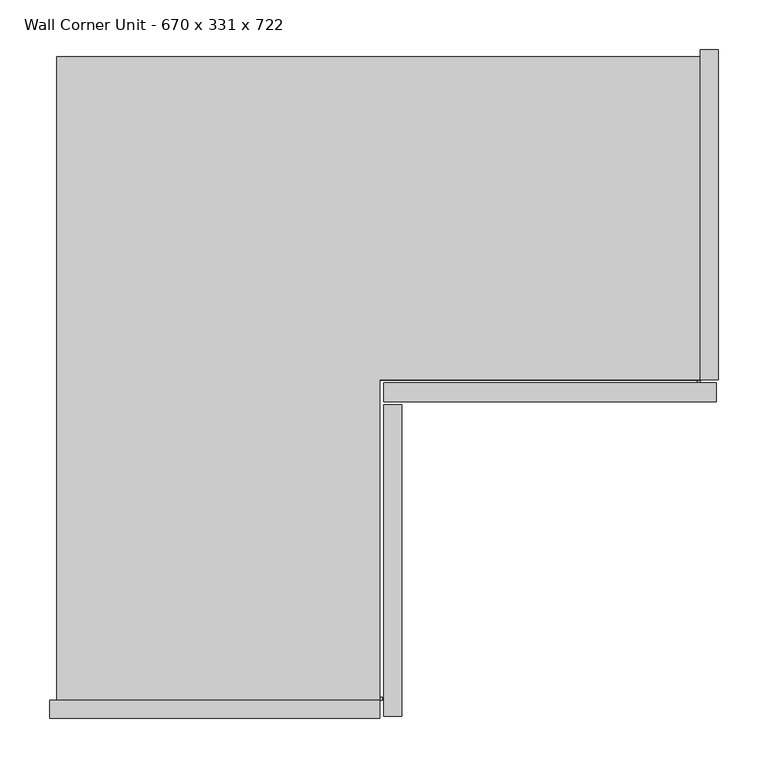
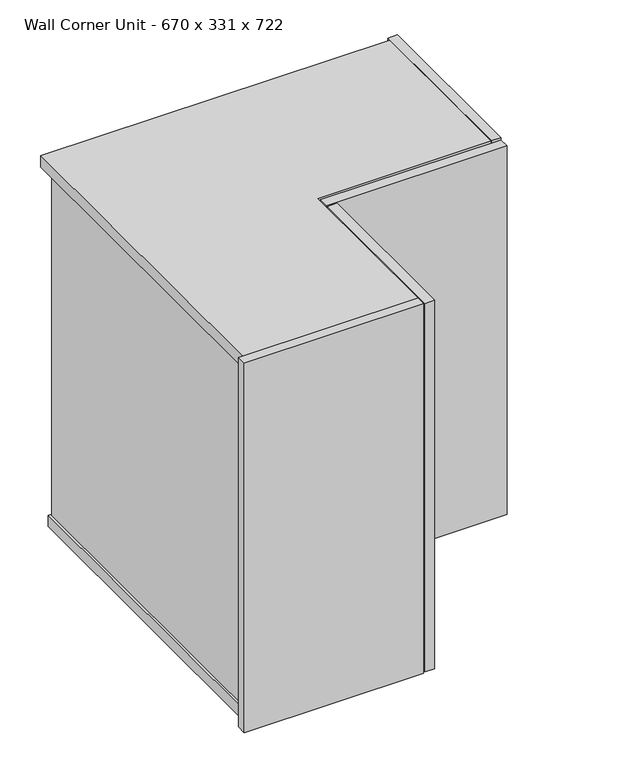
"""IFC4 building model written with IfcOpenShell, lengths in millimetres: furniture geometry, Furniture_Other-Furniture_Molteni&C_Prime_Wall-Unit-SP-Corner_331mm : Wall Corner Unit - 670 x 331 x 722."""

import ifcopenshell
import ifcopenshell.guid

model = None  # the IFC model being written
_history = None  # IfcOwnerHistory: only IFC2X3 demands one
_inside = {}  # id of a spatial element -> (the spatial element, [elements in it])
_under = {}  # id of a project, library or spatial element -> (it, [spatial elements below it])
_declared = {}  # id of a project -> (the project, [libraries it declares])
_typed = {}  # id of a type object -> (the type object, [elements of that type])
_made_of = {}  # id of a material, layer set ... -> (it, [elements and type objects made of it])


def new_model(schema):
    """Start an empty IFC model of exactly this schema.

    Asked for "IFC4X3", IfcOpenShell would pick the latest addendum, in which some entities
    have other attributes; the version numbers below select the first issue.
    IFC2X3 requires an IfcOwnerHistory on every rooted entity: one is made here for all.
    """
    global model, _history
    if schema == "IFC4X3":
        model = ifcopenshell.file(schema_version=(4, 3, 0, 0))
    else:
        model = ifcopenshell.file(schema=schema)
    _inside.clear()
    _under.clear()
    _declared.clear()
    _typed.clear()
    _made_of.clear()
    _history = None
    if model.schema == "IFC2X3":
        org = make("IfcOrganization", Name="unknown")
        user = make(
            "IfcPersonAndOrganization",
            ThePerson=make("IfcPerson", FamilyName="unknown"),
            TheOrganization=org,
        )
        app = make(
            "IfcApplication",
            ApplicationDeveloper=org,
            Version="unknown",
            ApplicationFullName="unknown",
            ApplicationIdentifier="unknown",
        )
        _history = make(
            "IfcOwnerHistory",
            OwningUser=user,
            OwningApplication=app,
            ChangeAction="ADDED",
            CreationDate=0,
        )
    return model


def make(cls, **values):
    """One entity of the class cls with the attributes given. An attribute that is None is left unset."""
    return model.create_entity(
        cls, **{name: value for name, value in values.items() if value is not None}
    )


def rooted(cls, **values):
    """An entity with a GlobalId (a new one), such as an element, a storey or a relation."""
    return make(cls, GlobalId=ifcopenshell.guid.new(), OwnerHistory=_history, **values)


def si_unit(unit_type, name, prefix=None):
    """IfcSIUnit, for example si_unit("LENGTHUNIT", "METRE", prefix="MILLI")."""
    return make("IfcSIUnit", UnitType=unit_type, Prefix=prefix, Name=name)


def assignment(units):
    """IfcUnitAssignment: the units of a project."""
    return None if units is None else make("IfcUnitAssignment", Units=units)


def point(xyz):
    """IfcCartesianPoint."""
    return None if xyz is None else make("IfcCartesianPoint", Coordinates=xyz)


def direction(xyz):
    """IfcDirection."""
    return None if xyz is None else make("IfcDirection", DirectionRatios=xyz)


def frame(location, z_axis=None, x_axis=None):
    """IfcAxis2Placement3D, a coordinate frame: its origin and axes. An axis left out is left unset."""
    return make(
        "IfcAxis2Placement3D",
        Location=point(location),
        Axis=direction(z_axis),
        RefDirection=direction(x_axis),
    )


def origin():
    """The frame at (0, 0, 0) with its axes left unset."""
    return frame((0.0, 0.0, 0.0))


def origin_with_axes():
    """The frame at (0, 0, 0) with the z axis (0, 0, 1) and the x axis (1, 0, 0) written out."""
    return frame((0.0, 0.0, 0.0), z_axis=(0.0, 0.0, 1.0), x_axis=(1.0, 0.0, 0.0))


def place(relative_to, where):
    """IfcLocalPlacement: puts the frame where relative to a parent placement (None: the world)."""
    return make(
        "IfcLocalPlacement", PlacementRelTo=relative_to, RelativePlacement=where
    )


def context(
    kind, dimensions, precision=None, world=None, true_north=None, identifier=None
):
    """IfcGeometricRepresentationContext, for example the 3D "Model" context."""
    return make(
        "IfcGeometricRepresentationContext",
        ContextIdentifier=identifier,
        ContextType=kind,
        CoordinateSpaceDimension=dimensions,
        Precision=precision,
        WorldCoordinateSystem=world,
        TrueNorth=true_north,
    )


def project(units=None, contexts=None):
    """IfcProject with its units and contexts."""
    return rooted(
        "IfcProject",
        Name="project",
        RepresentationContexts=contexts,
        UnitsInContext=assignment(units),
    )


def spatial(cls, under=None, at=None, **own):
    """A site, building, storey or space (cls), placed at a placement, below another one or the project."""
    s = rooted(cls, ObjectPlacement=at, **own)
    if under is not None:
        _under.setdefault(under.id(), (under, []))[1].append(s)
    return s


def polyline(points):
    """IfcPolyline through the points."""
    return make("IfcPolyline", Points=[point(p) for p in points])


def circle_curve(where, radius):
    """IfcCircle in the frame where."""
    return make("IfcCircle", Position=where, Radius=radius)


def outline(outer, holes=None, kind="AREA"):
    """IfcArbitraryClosedProfileDef: a profile drawn as a closed curve; with holes, ...WithVoids."""
    if holes is None:
        return make("IfcArbitraryClosedProfileDef", ProfileType=kind, OuterCurve=outer)
    return make(
        "IfcArbitraryProfileDefWithVoids",
        ProfileType=kind,
        OuterCurve=outer,
        InnerCurves=holes,
    )


def extrude(swept, where, along, depth):
    """IfcExtrudedAreaSolid: the profile swept, set in the frame where, extruded along a direction by depth."""
    return make(
        "IfcExtrudedAreaSolid",
        SweptArea=swept,
        Position=where,
        ExtrudedDirection=direction(along),
        Depth=depth,
    )


def faces_of(points, faces, orient=None, outer=None):
    """IfcFace entities. A face is a list of loops; a loop is a list of indices into points, from 0.

    orient and outer hold one flag for each loop. By default every Orientation is true, the
    first loop of a face is its IfcFaceOuterBound and the others are IfcFaceBound.
    """
    made = []
    for i, loops in enumerate(faces):
        bounds = []
        for j, loop in enumerate(loops):
            is_outer = j == 0 if outer is None else outer[i][j]
            bounds.append(
                make(
                    "IfcFaceOuterBound" if is_outer else "IfcFaceBound",
                    Bound=make("IfcPolyLoop", Polygon=[points[k] for k in loop]),
                    Orientation=True if orient is None else orient[i][j],
                )
            )
        made.append(make("IfcFace", Bounds=bounds))
    return made


def faceted_brep(points, faces, orient=None, outer=None, voids=None):
    """IfcFacetedBrep: a solid bounded by flat faces; with voids (closed shells), ...WithVoids."""
    shared = [point(p) for p in points]
    hull = make("IfcClosedShell", CfsFaces=faces_of(shared, faces, orient, outer))
    if voids is None:
        return make("IfcFacetedBrep", Outer=hull)
    return make(
        "IfcFacetedBrepWithVoids",
        Outer=hull,
        Voids=[
            make(cls, CfsFaces=faces_of(shared, fs, o, b)) for cls, fs, o, b in voids
        ],
    )


def shape(context_of_items, identifier, shape_type, items):
    """IfcShapeRepresentation: the items that make up one representation, for example the "Body"."""
    return make(
        "IfcShapeRepresentation",
        ContextOfItems=context_of_items,
        RepresentationIdentifier=identifier,
        RepresentationType=shape_type,
        Items=items,
    )


def source(mapping_origin, context_of_items, identifier, shape_type, items):
    """IfcRepresentationMap: a shape defined once, which mapped items show again and again."""
    return make(
        "IfcRepresentationMap",
        MappingOrigin=mapping_origin,
        MappedRepresentation=shape(context_of_items, identifier, shape_type, items),
    )


def transform(
    local_origin,
    x_axis=None,
    y_axis=None,
    z_axis=None,
    scale=None,
    scale2=None,
    scale3=None,
    uniform=True,
):
    """IfcCartesianTransformationOperator3D, or its non-uniform kind. x_axis, y_axis, z_axis: its Axis1, 2, 3."""
    if uniform:
        return make(
            "IfcCartesianTransformationOperator3D",
            Axis1=direction(x_axis),
            Axis2=direction(y_axis),
            LocalOrigin=point(local_origin),
            Scale=scale,
            Axis3=direction(z_axis),
        )
    return make(
        "IfcCartesianTransformationOperator3DnonUniform",
        Axis1=direction(x_axis),
        Axis2=direction(y_axis),
        LocalOrigin=point(local_origin),
        Scale=scale,
        Axis3=direction(z_axis),
        Scale2=scale2,
        Scale3=scale3,
    )


def mapped(mapping_source, mapping_target):
    """IfcMappedItem: shows the shape of a source again, moved by a transform."""
    return make(
        "IfcMappedItem", MappingSource=mapping_source, MappingTarget=mapping_target
    )


def made_of(thing, what):
    """Note that an element or type object is made of a material, layer set ...; save() writes the relation."""
    if what is not None:
        _made_of.setdefault(what.id(), (what, []))[1].append(thing)
    return thing


def element(
    cls,
    number,
    at=None,
    inside=None,
    cuts=None,
    type_object=None,
    material=None,
    context=None,
    identifier="Body",
    shape_type=None,
    held_by="IfcProductDefinitionShape",
    body=None,
    shapes=None,
    **own,
):
    """One element of the class cls, such as IfcWall. Its Tag is "e" and its number.

    at: its placement. inside: the storey or other place that contains it. cuts: it is an
    opening in that element (IfcRelVoidsElement). A single representation is given by context,
    identifier, shape_type and body (its items); several are given by shapes. held_by: the class
    of the entity that holds the representations. save() writes the other relations.
    """
    e = rooted(cls, Tag="e%d" % number, ObjectPlacement=at, **own)
    if body is not None:
        shapes = [shape(context, identifier, shape_type, body)]
    if shapes is not None:
        e.Representation = make(held_by, Representations=shapes)
    if inside is not None:
        _inside.setdefault(inside.id(), (inside, []))[1].append(e)
    if cuts is not None:
        rooted(
            "IfcRelVoidsElement", RelatingBuildingElement=cuts, RelatedOpeningElement=e
        )
    if type_object is not None:
        _typed.setdefault(type_object.id(), (type_object, []))[1].append(e)
    return made_of(e, material)


def aggregate(whole, parts):
    """IfcRelAggregates: a whole, such as a stair, and the parts it consists of."""
    return rooted("IfcRelAggregates", RelatingObject=whole, RelatedObjects=parts)


def save(model, path):
    """Write the relations noted so far, then the file.

    IfcRelAggregates (storeys below a building ...), IfcRelContainedInSpatialStructure (elements
    in a storey), IfcRelDefinesByType, IfcRelAssociatesMaterial and IfcRelDeclares: one each for
    every whole, place, type object, material and project.
    """
    for whole, parts in _under.values():
        aggregate(whole, parts)
    for where, things in _inside.values():
        rooted(
            "IfcRelContainedInSpatialStructure",
            RelatedElements=things,
            RelatingStructure=where,
        )
    for kind, things in _typed.values():
        rooted("IfcRelDefinesByType", RelatedObjects=things, RelatingType=kind)
    for what, things in _made_of.values():
        rooted("IfcRelAssociatesMaterial", RelatedObjects=things, RelatingMaterial=what)
    for by, libraries in _declared.values():
        rooted("IfcRelDeclares", RelatingContext=by, RelatedDefinitions=libraries)
    model.write(path)


def plane_surface(at):
    """IfcPlane: the flat surface through the origin of the frame at, square to its z axis."""
    return make("IfcPlane", Position=at)


def cylinder_surface(at, radius):
    """IfcCylindricalSurface: all points at the distance radius from the z axis of the frame at."""
    return make("IfcCylindricalSurface", Position=at, Radius=radius)


def advanced_brep(points, edges, surfaces, faces):
    """IfcAdvancedBrep: a solid bounded by faces that lie on surfaces and meet in shared edges.

    An edge is (start, end): straight between two places in points (the first is 0);
    or (start, end, curve); or (start, end, curve, False) where it runs against its curve.
    A face is (place in surfaces, loops), or (place, loops, False) where it looks against
    its surface's normal. A loop lists edges by number (the first is 1), with a minus sign
    where the edge is run from its end to its start. The first loop is the outer one.
    """
    corners = [point(p) for p in points]
    vertices = [make("IfcVertexPoint", VertexGeometry=c) for c in corners]
    made = []
    for start, end, *more in edges:
        made.append(
            make(
                "IfcEdgeCurve",
                EdgeStart=vertices[start],
                EdgeEnd=vertices[end],
                EdgeGeometry=more[0] if more else make("IfcPolyline", Points=[corners[start], corners[end]]),
                SameSense=more[1] if len(more) > 1 else True,
            )
        )
    hull = []
    for where, loops, *sense in faces:
        bounds = []
        for j, loop in enumerate(loops):
            ring = [make("IfcOrientedEdge", EdgeElement=made[abs(k) - 1], Orientation=k > 0) for k in loop]
            bounds.append(
                make(
                    "IfcFaceOuterBound" if j == 0 else "IfcFaceBound",
                    Bound=make("IfcEdgeLoop", EdgeList=ring),
                    Orientation=True,
                )
            )
        hull.append(make("IfcAdvancedFace", Bounds=bounds, FaceSurface=surfaces[where], SameSense=sense[0] if sense else True))
    return make("IfcAdvancedBrep", Outer=make("IfcClosedShell", CfsFaces=hull))


def wall_corner_unit_670_x_331_x_722_3f49a759(model_context):
    return source(origin(), model_context, "Body", "SolidModel", [
        extrude(outline(polyline([(-307.0, 137.5), (317.0, 137.5), (317.0, -143.5), (-26.0, -143.5), (-26.0, -486.5), (-307.0, -486.5), (-307.0, 137.5)])), frame((0.0, 0.0, 349.9540261), z_axis=(0.0, 0.0, 1.0), x_axis=(1.0, 0.0, 0.0)), (0.0, 0.0, 1.0), 22.0405266),
        extrude(outline(polyline([(335.0, -165.5), (317.0, -165.5), (317.0, 165.5), (335.0, 165.5), (335.0, -165.5)])), origin_with_axes(), (0.0, 0.0, 1.0), 722.0),
        extrude(outline(polyline([(-4.0, -504.5), (-335.0, -504.5), (-335.0, -486.5), (-4.0, -486.5), (-4.0, -504.5)])), origin_with_axes(), (0.0, 0.0, 1.0), 722.0),
        advanced_brep(
        [(-4.0, -486.5, 22.0), (-307.0, -486.5, 22.0), (-307.0, -486.5, 17.0), (-315.0, -486.5, 17.0), (-315.0, -486.5, 22.0), (-319.5, -486.5, 22.0), (-319.5, -486.5, 0.0), (-26.0, -486.5, 0.0), (-26.0, -486.5, 15.0), (-4.0, -486.5, 15.0), (-4.0, -486.5, 16.0), (-4.0, -486.5, 21.0), (-4.0, -165.5, 22.0), (317.0, -165.5, 22.0), (317.0, 137.5, 22.0), (-307.0, 137.5, 22.0), (-307.0, 137.5, 17.0), (317.0, 137.5, 17.0), (317.0, 145.5, 17.0), (-315.0, 145.5, 17.0), (-315.0, 145.5, 22.0), (317.0, 145.5, 22.0), (317.0, 150.0, 22.0), (-319.5, 150.0, 22.0), (-319.5, 150.0, 0.0), (317.0, 150.0, 0.0), (317.0, -143.5, 0.0), (-26.0, -143.5, 0.0), (-26.0, -143.5, 15.0), (317.0, -143.5, 15.0), (317.0, -165.5, 15.0), (-4.0, -165.5, 15.0), (-4.0, -483.5200642, 21.0), (-4.0, -483.5200642, 16.0), (317.0, -165.5, 21.0), (317.0, -165.5, 16.0), (313.9953198, -165.5, 16.0), (313.9953198, -165.5, 21.0)],
        [
            (0, 1),
            (1, 2),
            (2, 3),
            (3, 4),
            (4, 5),
            (5, 6),
            (6, 7),
            (7, 8),
            (8, 9),
            (9, 10),
            (10, 11, circle_curve(frame((-4.0, -486.5, 18.5), z_axis=(0.0, -1.0, 0.0), x_axis=(1.0, 0.0, 0.0)), 2.5)),
            (11, 0),
            (0, 12),
            (12, 13),
            (13, 14),
            (14, 15),
            (15, 1),
            (15, 16),
            (16, 2),
            (16, 17),
            (17, 18),
            (18, 19),
            (19, 3),
            (19, 20),
            (20, 4),
            (20, 21),
            (21, 22),
            (22, 23),
            (23, 5),
            (23, 24),
            (24, 6),
            (24, 25),
            (25, 26),
            (26, 27),
            (27, 7),
            (27, 28),
            (28, 8),
            (28, 29),
            (29, 30),
            (30, 31),
            (31, 9),
            (11, 32),
            (32, 33),
            (33, 10),
            (31, 12),
            (13, 34),
            (34, 35, circle_curve(frame((317.0, -165.5, 18.5), z_axis=(1.0, 0.0, 0.0), x_axis=(0.0, 1.0, 0.0)), 2.5)),
            (35, 30),
            (29, 26),
            (25, 22),
            (21, 18),
            (17, 14),
            (35, 36),
            (36, 37),
            (37, 34),
            (36, 37, circle_curve(frame((313.9953198, -165.5, 18.5), z_axis=(-1.0, 0.0, 0.0), x_axis=(0.0, 1.0, 0.0)), 2.5)),
            (32, 33, circle_curve(frame((-4.0, -483.5200642, 18.5), z_axis=(0.0, 1.0, 0.0), x_axis=(1.0, 0.0, 0.0)), 2.5)),
        ],
        [
            plane_surface(frame((-335.0, -486.5, 0.0), z_axis=(0.0, -1.0, 0.0), x_axis=(0.0, 0.0, 1.0))),
            plane_surface(frame((-30.0, -486.5, 22.0), z_axis=(0.0, 0.0, 1.0), x_axis=(0.0, 1.0, 0.0))),
            plane_surface(frame((-307.0, -486.5, 22.0), z_axis=(-1.0, 0.0, 0.0), x_axis=(0.0, 1.0, 0.0))),
            plane_surface(frame((-307.0, -486.5, 17.0), z_axis=(0.0, 0.0, 1.0), x_axis=(0.0, 1.0, 0.0))),
            plane_surface(frame((-315.0, -486.5, 17.0), z_axis=(1.0, 0.0, 0.0), x_axis=(0.0, 1.0, 0.0))),
            plane_surface(frame((-315.0, -486.5, 22.0), z_axis=(0.0, 0.0, 1.0), x_axis=(0.0, 1.0, 0.0))),
            plane_surface(frame((-319.5, -486.5, 22.0), z_axis=(-1.0, 0.0, 0.0), x_axis=(0.0, 1.0, 0.0))),
            plane_surface(frame((-319.5, -486.5, 0.0), z_axis=(0.0, 0.0, -1.0), x_axis=(0.0, 1.0, 0.0))),
            plane_surface(frame((-26.0, -486.5, 0.0), z_axis=(1.0, 0.0, 0.0), x_axis=(0.0, 1.0, 0.0))),
            plane_surface(frame((-26.0, -486.5, 15.0), z_axis=(0.0, 0.0, -1.0), x_axis=(0.0, 1.0, 0.0))),
            plane_surface(frame((-4.0, -486.5, 15.0), z_axis=(1.0, 0.0, 0.0), x_axis=(0.0, 1.0, 0.0))),
            plane_surface(frame((317.0, 165.5, 0.0), z_axis=(1.0, 0.0, 0.0), x_axis=(0.0, 0.0, 1.0))),
            plane_surface(frame((-307.0, 137.5, 22.0), z_axis=(0.0, 1.0, 0.0), x_axis=(1.0, 0.0, 0.0))),
            plane_surface(frame((-315.0, 145.5, 17.0), z_axis=(0.0, -1.0, 0.0), x_axis=(1.0, 0.0, 0.0))),
            plane_surface(frame((-319.5, 150.0, 22.0), z_axis=(0.0, 1.0, 0.0), x_axis=(1.0, 0.0, 0.0))),
            plane_surface(frame((-26.0, -143.5, 0.0), z_axis=(0.0, -1.0, 0.0), x_axis=(1.0, 0.0, 0.0))),
            plane_surface(frame((-4.0, -165.5, 15.0), z_axis=(0.0, -1.0, 0.0), x_axis=(1.0, 0.0, 0.0))),
            plane_surface(frame((313.9953198, -165.5, 608.0), z_axis=(-1.0, 0.0, 0.0), x_axis=(0.0, 0.0, -1.0))),
            cylinder_surface(frame((313.9953198, -165.5, 18.5), z_axis=(1.0, 0.0, 0.0), x_axis=(0.0, 1.0, 0.0)), 2.5),
            plane_surface(frame((-1.5, -483.5200642, 18.5), z_axis=(0.0, 1.0, 0.0), x_axis=(0.0, 0.0, -1.0))),
            cylinder_surface(frame((-4.0, -483.5200642, 18.5), z_axis=(0.0, -1.0, 0.0), x_axis=(1.0, 0.0, 0.0)), 2.5),
        ],
        [
            (0, [[1, 2, 3, 4, 5, 6, 7, 8, 9, 10, 11, 12]]),
            (1, [[-1, 13, 14, 15, 16, 17]]),
            (2, [[-2, -17, 18, 19]]),
            (3, [[-3, -19, 20, 21, 22, 23]]),
            (4, [[-4, -23, 24, 25]]),
            (5, [[-5, -25, 26, 27, 28, 29]]),
            (6, [[-6, -29, 30, 31]]),
            (7, [[-7, -31, 32, 33, 34, 35]]),
            (8, [[-8, -35, 36, 37]]),
            (9, [[-9, -37, 38, 39, 40, 41]]),
            (10, [[-13, -12, 42, 43, 44, -10, -41, 45]]),
            (11, [[-15, 46, 47, 48, -39, 49, -33, 50, -27, 51, -21, 52]]),
            (12, [[-16, -52, -20, -18]]),
            (13, [[-22, -51, -26, -24]]),
            (14, [[-28, -50, -32, -30]]),
            (15, [[-34, -49, -38, -36]]),
            (16, [[-14, -45, -40, -48, 53, 54, 55, -46]]),
            (17, [[56, -54]]),
            (18, [[-47, -55, -56, -53]]),
            (19, [[57, -43]]),
            (20, [[-11, -44, -57, -42]]),
        ],
    ),
        faceted_brep([(317.0, 158.5, 700.0), (317.0, 158.5, 722.0), (317.0, -165.5, 722.0), (317.0, -165.5, 700.0), (317.0, 137.5, 700.0), (317.0, 137.5, 705.0), (317.0, 145.5, 705.0), (317.0, 145.5, 700.0), (-328.0, 158.5, 700.0), (-328.0, 158.5, 722.0), (-328.0, -486.5, 722.0), (-4.0, -486.5, 722.0), (-4.0, -165.5, 722.0), (-4.0, -165.5, 700.0), (-4.0, -486.5, 700.0), (-307.0, -486.5, 700.0), (-307.0, 137.5, 700.0), (-307.0, 137.5, 705.0), (-307.0, -486.5, 705.0), (-315.0, -486.5, 705.0), (-315.0, 145.5, 705.0), (-315.0, 145.5, 700.0), (-315.0, -486.5, 700.0), (-328.0, -486.5, 700.0)], [[[0, 1, 2, 3, 4, 5, 6, 7]], [[1, 0, 8, 9]], [[2, 1, 9, 10, 11, 12]], [[3, 2, 12, 13]], [[4, 3, 13, 14, 15, 16]], [[5, 4, 16, 17]], [[6, 5, 17, 18, 19, 20]], [[7, 6, 20, 21]], [[0, 7, 21, 22, 23, 8]], [[11, 10, 23, 22, 19, 18, 15, 14]], [[9, 8, 23, 10]], [[12, 11, 14, 13]], [[16, 15, 18, 17]], [[20, 19, 22, 21]]]),
        extrude(outline(polyline([(-315.0, 145.5), (317.0, 145.5), (317.0, 137.5), (-307.0, 137.5), (-307.0, -486.5), (-315.0, -486.5), (-315.0, 145.5)])), frame((0.0, 0.0, 17.0), z_axis=(0.0, 0.0, 1.0), x_axis=(1.0, 0.0, 0.0)), (0.0, 0.0, 1.0), 688.0),
        extrude(outline(polyline([(0.0, -187.5), (0.0, -168.5), (333.0, -168.5), (333.0, -187.5), (0.0, -187.5)])), origin_with_axes(), (0.0, 0.0, 1.0), 719.9973284),
        extrude(outline(polyline([(0.0, -502.5), (0.0, -190.5), (18.0, -190.5), (18.0, -502.5), (0.0, -502.5)])), origin_with_axes(), (0.0, 0.0, 1.0), 719.9973284),
    ])


if __name__ == "__main__":
    model = new_model("IFC4")
    model_context = context("Model", 3, world=origin())
    ifc_project = project(units=[si_unit("LENGTHUNIT", "METRE", prefix="MILLI")], contexts=[model_context])
    site = spatial("IfcSite", under=ifc_project)
    building = spatial("IfcBuilding", under=site)
    placement = place(None, origin())
    wall_corner_unit_670_x_331_x_722_shape = wall_corner_unit_670_x_331_x_722_3f49a759(model_context)
    element("IfcFurniture", 1, ObjectType="Furniture_Other-Furniture_Molteni&C_Prime_Wall-Unit-SP-Corner_331mm : Wall Corner Unit - 670 x 331 x 722", at=placement, inside=building, context=model_context, shape_type="MappedRepresentation", body=[
        mapped(wall_corner_unit_670_x_331_x_722_shape, transform((0.0, 0.0, 0.0), x_axis=(1.0, 0.0, 0.0), y_axis=(0.0, 1.0, 0.0), z_axis=(0.0, 0.0, 1.0))),
    ])
    save(model, "model.ifc")
